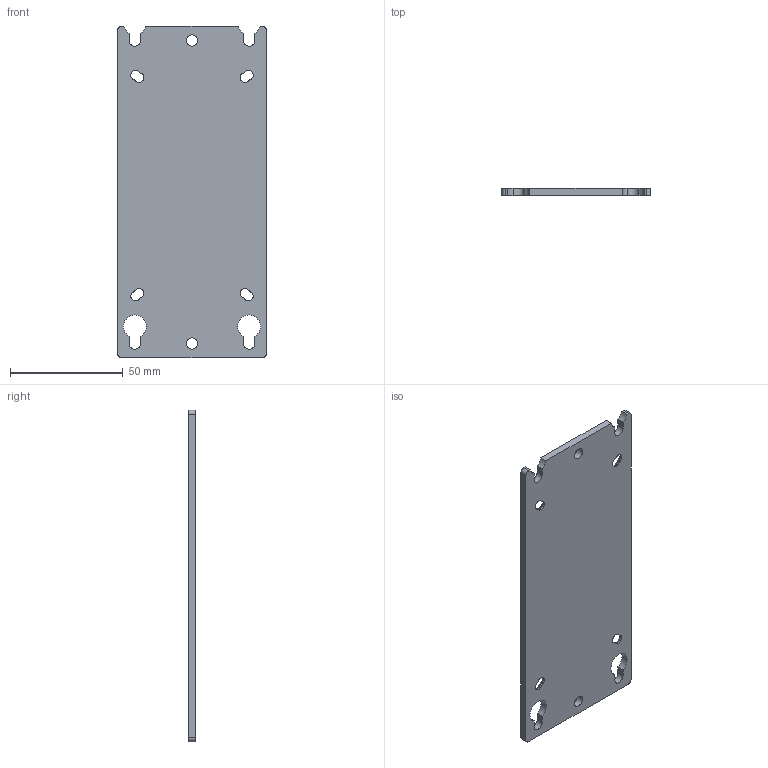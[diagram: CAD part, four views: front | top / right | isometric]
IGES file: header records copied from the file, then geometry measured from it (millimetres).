
Start section:  PTC IGES file: mount_panel_kit_severra.igs
Global section: file name: mount_panel_kit_severra.igs; native system: Pro/ENGINEER by Parametric Technology Corporation; preprocessor: 2010230; author: dkendric; organization: Unknown; date: 20110930.104317; units: inch
Bounding box: 66.04 x 3.17 x 147.32 mm (x, y, z)
Surface area: 20505.2 mm2 (no closed solid volume)
Topology: 0 solids, 0 shells, 50 faces, 272 edges, 272 vertices
Faces by surface type: revolution 34, bspline 16
